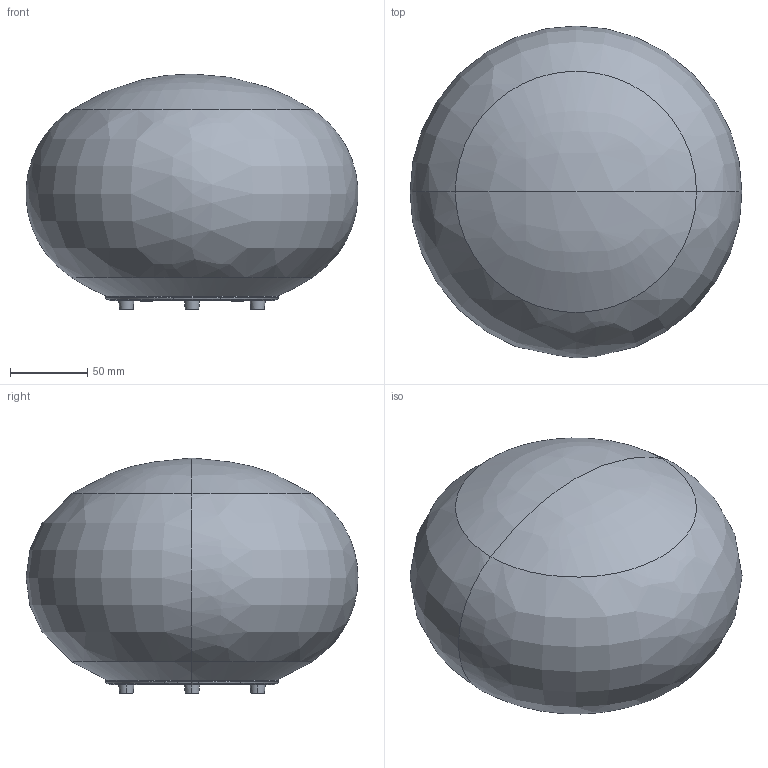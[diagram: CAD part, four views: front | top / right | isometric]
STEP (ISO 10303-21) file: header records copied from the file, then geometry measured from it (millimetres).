
FILE_DESCRIPTION(/* description */ (''),/* implementation_level */ '2;1');
FILE_NAME(/* name */ 'C065__.022',/* time_stamp */ '2024-08-30T17:18:10+02:00',/* author */ (''),/* organization */ (''),/* preprocessor_version */ 'ST-DEVELOPER v16.5',/* originating_system */ '',/* authorisation */ '');
FILE_SCHEMA (('AUTOMOTIVE_DESIGN'));
Length unit declared in the file: millimetre
Products named in the file (1): Document
Bounding box: 214.72 x 215 x 152.81 mm (x, y, z)
Volume: 338380.3 mm3; surface area: 243172 mm2
Topology: 9 solids, 9 shells, 205 faces, 420 edges, 244 vertices
Faces by surface type: bspline 150, plane 55
Entity records: 9910 total; most frequent: CARTESIAN_POINT 7377, ORIENTED_EDGE 832, EDGE_CURVE 416, VERTEX_POINT 244, EDGE_LOOP 236, ADVANCED_FACE 205, FACE_OUTER_BOUND 205, B_SPLINE_CURVE_WITH_KNOTS 150
